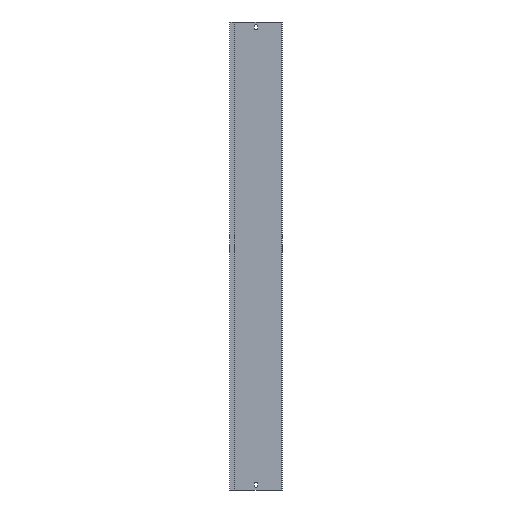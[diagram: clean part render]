
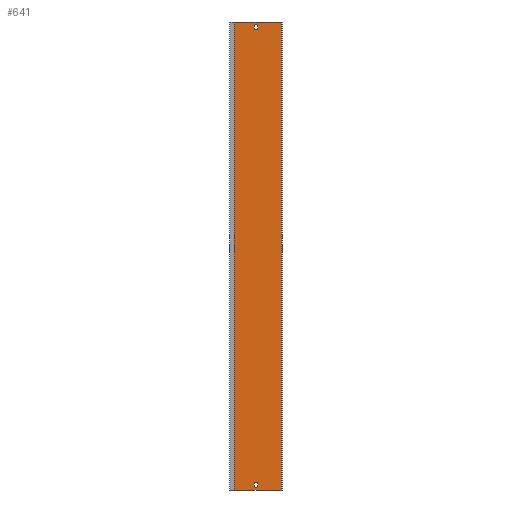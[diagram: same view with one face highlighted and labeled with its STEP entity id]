
A CAD part, front view. The second image highlights one B-rep face of the part: STEP entity #641.
In plain terms, the highlighted planar face has unit normal (0, -1, 0).
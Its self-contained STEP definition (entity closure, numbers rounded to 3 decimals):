
#4 = FACE_BOUND ( 'NONE', #876, .T. ) ;
#6 = DIRECTION ( 'NONE',  ( 0., 1., 0. ) ) ;
#9 = AXIS2_PLACEMENT_3D ( 'NONE', #174, #583, #514 ) ;
#10 = EDGE_CURVE ( 'NONE', #664, #566, #828, .T. ) ;
#12 = VERTEX_POINT ( 'NONE', #976 ) ;
#16 = DIRECTION ( 'NONE',  ( 0., 0., 1. ) ) ;
#18 = DIRECTION ( 'NONE',  ( 1., 0., 0. ) ) ;
#22 = VERTEX_POINT ( 'NONE', #1051 ) ;
#24 = DIRECTION ( 'NONE',  ( 0., 0., -1. ) ) ;
#29 = LINE ( 'NONE', #1020, #962 ) ;
#30 = CARTESIAN_POINT ( 'NONE',  ( 86.8, 11., 879. ) ) ;
#31 = ORIENTED_EDGE ( 'NONE', *, *, #928, .F. ) ;
#35 = CARTESIAN_POINT ( 'NONE',  ( 41., 11., 870.5 ) ) ;
#64 = VECTOR ( 'NONE', #18, 1000. ) ;
#79 = ORIENTED_EDGE ( 'NONE', *, *, #254, .T. ) ;
#88 = DIRECTION ( 'NONE',  ( 0., 1., 0. ) ) ;
#91 = LINE ( 'NONE', #1064, #662 ) ;
#105 = CARTESIAN_POINT ( 'NONE',  ( -6.5, 11., 879. ) ) ;
#112 = LINE ( 'NONE', #788, #660 ) ;
#121 = CARTESIAN_POINT ( 'NONE',  ( 44.5, 11., 11.5 ) ) ;
#122 = AXIS2_PLACEMENT_3D ( 'NONE', #247, #903, #826 ) ;
#124 = CARTESIAN_POINT ( 'NONE',  ( -4.8, 11., 879. ) ) ;
#134 = VERTEX_POINT ( 'NONE', #105 ) ;
#146 = DIRECTION ( 'NONE',  ( 0., 0., 1. ) ) ;
#149 = EDGE_CURVE ( 'NONE', #613, #158, #767, .T. ) ;
#153 = CIRCLE ( 'NONE', #593, 3.5 ) ;
#158 = VERTEX_POINT ( 'NONE', #273 ) ;
#164 = ORIENTED_EDGE ( 'NONE', *, *, #179, .F. ) ;
#170 = FACE_BOUND ( 'NONE', #937, .T. ) ;
#174 = CARTESIAN_POINT ( 'NONE',  ( 41., 11., 8.5 ) ) ;
#176 = CARTESIAN_POINT ( 'NONE',  ( -8., 11., 879. ) ) ;
#179 = EDGE_CURVE ( 'NONE', #824, #134, #304, .T. ) ;
#193 = VERTEX_POINT ( 'NONE', #885 ) ;
#206 = CARTESIAN_POINT ( 'NONE',  ( 44.5, 11., 870.5 ) ) ;
#207 = CARTESIAN_POINT ( 'NONE',  ( -6.5, 11., 879. ) ) ;
#209 = LINE ( 'NONE', #1009, #995 ) ;
#210 = ORIENTED_EDGE ( 'NONE', *, *, #745, .F. ) ;
#212 = DIRECTION ( 'NONE',  ( -1., 0., 0. ) ) ;
#236 = DIRECTION ( 'NONE',  ( 0., 0., 1. ) ) ;
#244 = EDGE_CURVE ( 'NONE', #665, #664, #458, .T. ) ;
#247 = CARTESIAN_POINT ( 'NONE',  ( 41., 11., 867.5 ) ) ;
#250 = DIRECTION ( 'NONE',  ( 0., 0., 1. ) ) ;
#253 = CARTESIAN_POINT ( 'NONE',  ( 37.5, 11., 870.5 ) ) ;
#254 = EDGE_CURVE ( 'NONE', #984, #644, #153, .T. ) ;
#257 = VECTOR ( 'NONE', #16, 1000. ) ;
#273 = CARTESIAN_POINT ( 'NONE',  ( 88.5, 11., 879. ) ) ;
#283 = DIRECTION ( 'NONE',  ( 0., -1., 0. ) ) ;
#291 = CARTESIAN_POINT ( 'NONE',  ( 41., 11., 5. ) ) ;
#297 = AXIS2_PLACEMENT_3D ( 'NONE', #870, #557, #24 ) ;
#304 = LINE ( 'NONE', #207, #578 ) ;
#309 = CARTESIAN_POINT ( 'NONE',  ( 37.5, 11., 8.5 ) ) ;
#310 = VERTEX_POINT ( 'NONE', #30 ) ;
#315 = EDGE_CURVE ( 'NONE', #1006, #310, #112, .T. ) ;
#334 = CARTESIAN_POINT ( 'NONE',  ( 88.5, 11., 0. ) ) ;
#335 = ORIENTED_EDGE ( 'NONE', *, *, #697, .F. ) ;
#336 = DIRECTION ( 'NONE',  ( -1., 0., 0. ) ) ;
#344 = EDGE_CURVE ( 'NONE', #644, #665, #862, .T. ) ;
#346 = PLANE ( 'NONE',  #829 ) ;
#348 = LINE ( 'NONE', #253, #495 ) ;
#349 = DIRECTION ( 'NONE',  ( 0., 0., 1. ) ) ;
#355 = ORIENTED_EDGE ( 'NONE', *, *, #508, .T. ) ;
#367 = VERTEX_POINT ( 'NONE', #534 ) ;
#376 = DIRECTION ( 'NONE',  ( 0., 0., -1. ) ) ;
#380 = EDGE_CURVE ( 'NONE', #367, #429, #209, .T. ) ;
#398 = CARTESIAN_POINT ( 'NONE',  ( -8., 11., 879. ) ) ;
#406 = CIRCLE ( 'NONE', #297, 3.5 ) ;
#415 = EDGE_LOOP ( 'NONE', ( #982, #1037, #595, #648, #497, #934, #164, #658 ) ) ;
#429 = VERTEX_POINT ( 'NONE', #877 ) ;
#437 = VECTOR ( 'NONE', #607, 1000. ) ;
#448 = DIRECTION ( 'NONE',  ( 1., 0., 0. ) ) ;
#455 = LINE ( 'NONE', #206, #881 ) ;
#458 = CIRCLE ( 'NONE', #9, 3.5 ) ;
#460 = CIRCLE ( 'NONE', #122, 3.5 ) ;
#484 = LINE ( 'NONE', #398, #509 ) ;
#495 = VECTOR ( 'NONE', #597, 1000. ) ;
#496 = EDGE_CURVE ( 'NONE', #310, #158, #484, .T. ) ;
#497 = ORIENTED_EDGE ( 'NONE', *, *, #315, .F. ) ;
#508 = EDGE_CURVE ( 'NONE', #566, #984, #886, .T. ) ;
#509 = VECTOR ( 'NONE', #571, 1000. ) ;
#514 = DIRECTION ( 'NONE',  ( 0., 0., 1. ) ) ;
#534 = CARTESIAN_POINT ( 'NONE',  ( -4.8, 11., 0. ) ) ;
#541 = CARTESIAN_POINT ( 'NONE',  ( 44.5, 11., 867.5 ) ) ;
#557 = DIRECTION ( 'NONE',  ( 0., -1., 0. ) ) ;
#566 = VERTEX_POINT ( 'NONE', #838 ) ;
#571 = DIRECTION ( 'NONE',  ( 1., 0., 0. ) ) ;
#577 = CARTESIAN_POINT ( 'NONE',  ( 44.5, 11., 870.5 ) ) ;
#578 = VECTOR ( 'NONE', #880, 1000. ) ;
#583 = DIRECTION ( 'NONE',  ( 0., 1., 0. ) ) ;
#593 = AXIS2_PLACEMENT_3D ( 'NONE', #906, #6, #349 ) ;
#595 = ORIENTED_EDGE ( 'NONE', *, *, #149, .T. ) ;
#597 = DIRECTION ( 'NONE',  ( 0., 0., -1. ) ) ;
#599 = EDGE_CURVE ( 'NONE', #193, #1035, #460, .T. ) ;
#607 = DIRECTION ( 'NONE',  ( 0., 0., -1. ) ) ;
#613 = VERTEX_POINT ( 'NONE', #334 ) ;
#624 = CARTESIAN_POINT ( 'NONE',  ( 86.8, 11., 0. ) ) ;
#628 = DIRECTION ( 'NONE',  ( 0., 0., 1. ) ) ;
#641 = ADVANCED_FACE ( 'NONE', ( #918, #170, #4 ), #346, .F. ) ;
#644 = VERTEX_POINT ( 'NONE', #121 ) ;
#648 = ORIENTED_EDGE ( 'NONE', *, *, #496, .F. ) ;
#658 = ORIENTED_EDGE ( 'NONE', *, *, #871, .F. ) ;
#660 = VECTOR ( 'NONE', #766, 1000. ) ;
#662 = VECTOR ( 'NONE', #336, 1000. ) ;
#664 = VERTEX_POINT ( 'NONE', #291 ) ;
#665 = VERTEX_POINT ( 'NONE', #785 ) ;
#670 = CARTESIAN_POINT ( 'NONE',  ( 41., 11., 8.5 ) ) ;
#697 = EDGE_CURVE ( 'NONE', #22, #193, #406, .T. ) ;
#699 = CARTESIAN_POINT ( 'NONE',  ( 88.5, 11., 879. ) ) ;
#711 = AXIS2_PLACEMENT_3D ( 'NONE', #670, #88, #250 ) ;
#734 = ORIENTED_EDGE ( 'NONE', *, *, #10, .T. ) ;
#745 = EDGE_CURVE ( 'NONE', #1035, #819, #455, .T. ) ;
#762 = VECTOR ( 'NONE', #146, 1000. ) ;
#766 = DIRECTION ( 'NONE',  ( 1., 0., 0. ) ) ;
#767 = LINE ( 'NONE', #699, #257 ) ;
#782 = CARTESIAN_POINT ( 'NONE',  ( 37.5, 11., 11.5 ) ) ;
#785 = CARTESIAN_POINT ( 'NONE',  ( 44.5, 11., 8.5 ) ) ;
#788 = CARTESIAN_POINT ( 'NONE',  ( -8., 11., 879. ) ) ;
#807 = CARTESIAN_POINT ( 'NONE',  ( -6.5, 11., 0. ) ) ;
#814 = AXIS2_PLACEMENT_3D ( 'NONE', #35, #283, #376 ) ;
#819 = VERTEX_POINT ( 'NONE', #577 ) ;
#820 = ORIENTED_EDGE ( 'NONE', *, *, #599, .F. ) ;
#824 = VERTEX_POINT ( 'NONE', #807 ) ;
#826 = DIRECTION ( 'NONE',  ( 0., 0., -1. ) ) ;
#828 = CIRCLE ( 'NONE', #711, 3.5 ) ;
#829 = AXIS2_PLACEMENT_3D ( 'NONE', #176, #971, #236 ) ;
#838 = CARTESIAN_POINT ( 'NONE',  ( 37.5, 11., 8.5 ) ) ;
#849 = LINE ( 'NONE', #624, #64 ) ;
#862 = LINE ( 'NONE', #936, #437 ) ;
#870 = CARTESIAN_POINT ( 'NONE',  ( 41., 11., 867.5 ) ) ;
#871 = EDGE_CURVE ( 'NONE', #367, #824, #91, .T. ) ;
#876 = EDGE_LOOP ( 'NONE', ( #907, #734, #355, #79, #991 ) ) ;
#877 = CARTESIAN_POINT ( 'NONE',  ( 86.8, 11., 0. ) ) ;
#880 = DIRECTION ( 'NONE',  ( 0., 0., 1. ) ) ;
#881 = VECTOR ( 'NONE', #628, 1000. ) ;
#885 = CARTESIAN_POINT ( 'NONE',  ( 41., 11., 864. ) ) ;
#886 = LINE ( 'NONE', #309, #762 ) ;
#903 = DIRECTION ( 'NONE',  ( 0., -1., 0. ) ) ;
#906 = CARTESIAN_POINT ( 'NONE',  ( 41., 11., 11.5 ) ) ;
#907 = ORIENTED_EDGE ( 'NONE', *, *, #244, .T. ) ;
#917 = CIRCLE ( 'NONE', #814, 3.5 ) ;
#918 = FACE_OUTER_BOUND ( 'NONE', #415, .T. ) ;
#928 = EDGE_CURVE ( 'NONE', #12, #22, #348, .T. ) ;
#934 = ORIENTED_EDGE ( 'NONE', *, *, #1021, .T. ) ;
#936 = CARTESIAN_POINT ( 'NONE',  ( 44.5, 11., 8.5 ) ) ;
#937 = EDGE_LOOP ( 'NONE', ( #31, #1008, #210, #820, #335 ) ) ;
#962 = VECTOR ( 'NONE', #212, 1000. ) ;
#971 = DIRECTION ( 'NONE',  ( 0., 1., 0. ) ) ;
#974 = EDGE_CURVE ( 'NONE', #819, #12, #917, .T. ) ;
#976 = CARTESIAN_POINT ( 'NONE',  ( 37.5, 11., 870.5 ) ) ;
#982 = ORIENTED_EDGE ( 'NONE', *, *, #380, .T. ) ;
#984 = VERTEX_POINT ( 'NONE', #782 ) ;
#991 = ORIENTED_EDGE ( 'NONE', *, *, #344, .T. ) ;
#995 = VECTOR ( 'NONE', #448, 1000. ) ;
#1005 = EDGE_CURVE ( 'NONE', #429, #613, #849, .T. ) ;
#1006 = VERTEX_POINT ( 'NONE', #124 ) ;
#1008 = ORIENTED_EDGE ( 'NONE', *, *, #974, .F. ) ;
#1009 = CARTESIAN_POINT ( 'NONE',  ( -8., 11., 0. ) ) ;
#1020 = CARTESIAN_POINT ( 'NONE',  ( -4.8, 11., 879. ) ) ;
#1021 = EDGE_CURVE ( 'NONE', #1006, #134, #29, .T. ) ;
#1035 = VERTEX_POINT ( 'NONE', #541 ) ;
#1037 = ORIENTED_EDGE ( 'NONE', *, *, #1005, .T. ) ;
#1051 = CARTESIAN_POINT ( 'NONE',  ( 37.5, 11., 867.5 ) ) ;
#1064 = CARTESIAN_POINT ( 'NONE',  ( -8., 11., 0. ) ) ;
